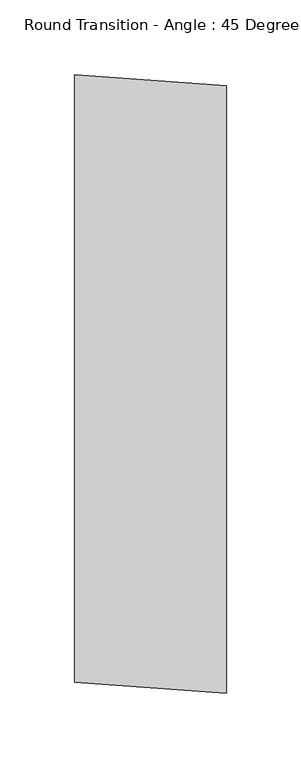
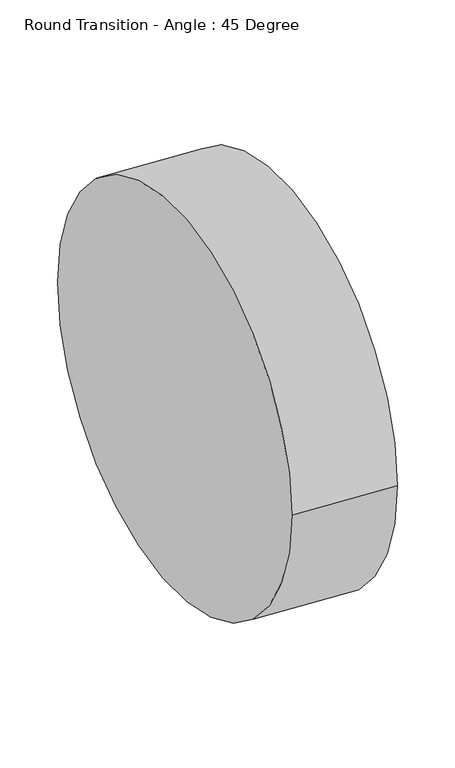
"""IFC4 building model written with IfcOpenShell, lengths in millimetres: duct fitting geometry, Round Transition - Angle : 45 Degree."""

from ifc_helpers import new_model, si_unit, point, frame, origin, place, context, project, spatial, circle_curve, trimmed, source, transform, mapped, element, save
from ifc_brep_helpers import plane_surface, extruded_surface, advanced_brep


def round_transition_angle_45_degree_a114afed(model_context):
    return source(origin(), model_context, "Body", "AdvancedBrep", [
        advanced_brep(
        [(101.6, -210.440761, 0.0), (101.6, 195.959239, 0.0), (0.0, -203.2, 0.0), (0.0, 203.2, 0.0)],
        [
            (0, 1, circle_curve(frame((101.6, -7.240761, 0.0), z_axis=(1.0, 0.0, 0.0), x_axis=(0.0, 1.0, 0.0)), 203.2)),
            (1, 0, circle_curve(frame((101.6, -7.240761, 0.0), z_axis=(1.0, 0.0, 0.0), x_axis=(0.0, 1.0, 0.0)), 203.2)),
            (2, 3, circle_curve(frame((0.0, 0.0, 0.0), z_axis=(-1.0, 0.0, 0.0), x_axis=(0.0, 1.0, 0.0)), 203.2)),
            (3, 2, circle_curve(frame((0.0, 0.0, 0.0), z_axis=(-1.0, 0.0, 0.0), x_axis=(0.0, 1.0, 0.0)), 203.2)),
            (3, 1),
            (0, 2),
        ],
        [
            plane_surface(frame((101.6, -7.240761, 0.0), z_axis=(1.0, 0.0, 0.0), x_axis=(0.0, 0.0, -1.0))),
            plane_surface(frame((0.0, 0.0, 0.0), z_axis=(-1.0, 0.0, 0.0), x_axis=(0.0, 0.0, -1.0))),
            extruded_surface(trimmed(circle_curve(frame((0.0, 0.0, 0.0), z_axis=(1.0, 0.0, 0.0), x_axis=(0.0, 1.0, 0.0)), 203.2), [point((0.0, -203.2, 0.0))], [point((0.0, 203.2, 0.0))], True, "CARTESIAN"), (101.6, -7.240761, 0.0), 101.85768807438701),
            extruded_surface(trimmed(circle_curve(frame((0.0, 0.0, 0.0), z_axis=(1.0, 0.0, 0.0), x_axis=(0.0, 1.0, 0.0)), 203.2), [point((0.0, 203.2, 0.0))], [point((0.0, -203.2, 0.0))], True, "CARTESIAN"), (101.6, -7.240761, 0.0), 101.85768807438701),
        ],
        [
            (0, [[1, 2]]),
            (1, [[3, 4]]),
            (2, [[-4, 5, -1, 6]]),
            (3, [[-3, -6, -2, -5]]),
        ],
    ),
    ])


if __name__ == "__main__":
    model = new_model("IFC4")
    model_context = context("Model", 3, world=origin())
    ifc_project = project(units=[si_unit("LENGTHUNIT", "METRE", prefix="MILLI")], contexts=[model_context])
    site = spatial("IfcSite", under=ifc_project)
    building = spatial("IfcBuilding", under=site)
    placement = place(None, origin())
    round_transition_angle_45_degree_shape = round_transition_angle_45_degree_a114afed(model_context)
    element("IfcDuctFitting", 1, ObjectType="Round Transition - Angle : 45 Degree", at=placement, inside=building, context=model_context, shape_type="MappedRepresentation", body=[
        mapped(round_transition_angle_45_degree_shape, transform((0.0, 0.0, 0.0), x_axis=(1.0, 0.0, 0.0), y_axis=(0.0, 1.0, 0.0), z_axis=(0.0, 0.0, 1.0))),
    ])
    save(model, "model.ifc")
